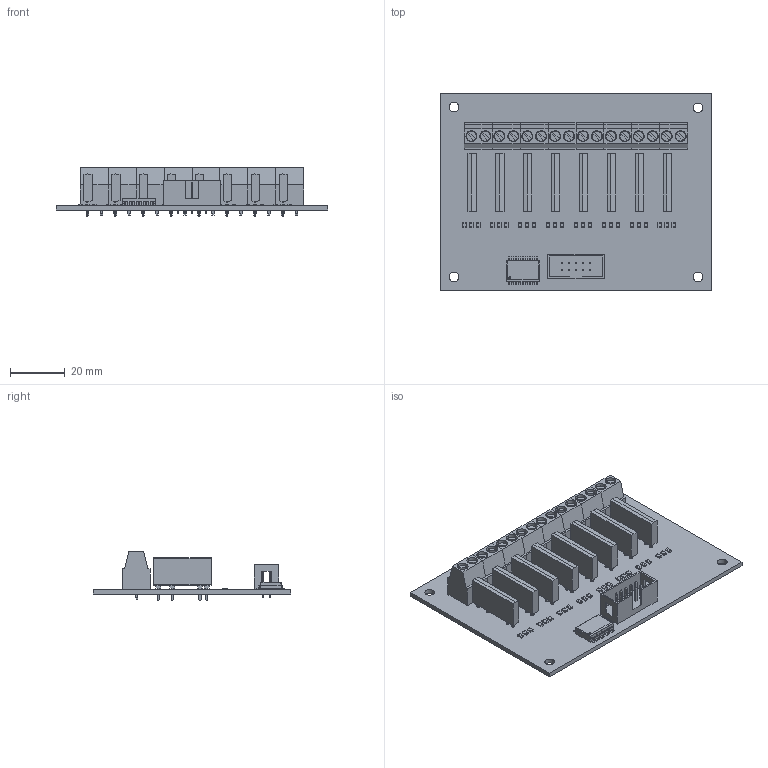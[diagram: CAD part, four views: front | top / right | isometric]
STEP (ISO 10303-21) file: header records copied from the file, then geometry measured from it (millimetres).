
FILE_DESCRIPTION(('Open CASCADE Model'),'2;1');
FILE_NAME('Open CASCADE Shape Model','2023-12-12T05:54:57',('Author'),( 'Open CASCADE'),'Open CASCADE STEP processor 6.8','Open CASCADE 6.8' ,'Unknown');
FILE_SCHEMA(('AUTOMOTIVE_DESIGN { 1 0 10303 214 1 1 1 1 }'));
Length unit declared in the file: millimetre
Products named in the file (53): PCB; Board; Open CASCADE STEP translator 6.8 1.1.1; U2; User_Library-SOIC18-300; 5926426064; Extruded; CON9; User_Library-BoxHeader_2R5W_254P_00D; R2; cr0805-fx-3300glf_RGB4408131; CON1; User_Library-EK508V-02P; K1; CPCSoldistaterelay_RGB4408131; LED1; R1; CON2; CON3; CON4; CON5; CON6; CON7; CON8; K2; K3; K4; K5; K6; K7; K8; LED2; LED3; LED4; LED5; LED6; LED7; LED8; R3; R4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
Assembly tree (89 placements, depth 4):
  PCB
    Board
      Open CASCADE STEP translator 6.8 1.1.1
    U2
      User_Library-SOIC18-300
      5926426064
        Extruded
    CON9
      User_Library-BoxHeader_2R5W_254P_00D
    R2
      cr0805-fx-3300glf_RGB4408131
    CON1
      User_Library-EK508V-02P
    K1
      CPCSoldistaterelay_RGB4408131
    LED1
      cr0805-fx-3300glf_RGB4408131
    R1
      cr0805-fx-3300glf_RGB4408131
    CON2
      User_Library-EK508V-02P
    CON3
      User_Library-EK508V-02P
    CON4
      User_Library-EK508V-02P
    CON5
      User_Library-EK508V-02P
    CON6
      User_Library-EK508V-02P
    CON7
      User_Library-EK508V-02P
    CON8
      User_Library-EK508V-02P
    K2
      CPCSoldistaterelay_RGB4408131
    K3
      CPCSoldistaterelay_RGB4408131
    K4
      CPCSoldistaterelay_RGB4408131
    K5
      CPCSoldistaterelay_RGB4408131
    K6
      CPCSoldistaterelay_RGB4408131
    K7
      CPCSoldistaterelay_RGB4408131
    K8
      CPCSoldistaterelay_RGB4408131
    LED2
      cr0805-fx-3300glf_RGB4408131
    LED3
      cr0805-fx-3300glf_RGB4408131
    LED4
      cr0805-fx-3300glf_RGB4408131
    LED5
      cr0805-fx-3300glf_RGB4408131
    LED6
      cr0805-fx-3300glf_RGB4408131
    LED7
      cr0805-fx-3300glf_RGB4408131
    LED8
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Bounding box: 99.07 x 72.02 x 17.8 mm (x, y, z)
Volume: 25953.1 mm3; surface area: 30758.7 mm2
Topology: 44 solids, 44 shells, 1890 faces, 4715 edges, 3004 vertices
Faces by surface type: plane 1672, cylinder 216, torus 2
Full cylindrical faces by diameter (mm): 0.889 x10, 1.143 x32, 1.524 x16, 3.5 x4
Entity records: 24606 total; most frequent: CARTESIAN_POINT 3608, DIRECTION 3594, ORIENTED_EDGE 3476, EDGE_CURVE 1738, LINE 1434, VECTOR 1434, VERTEX_POINT 1094, AXIS2_PLACEMENT_3D 1080
